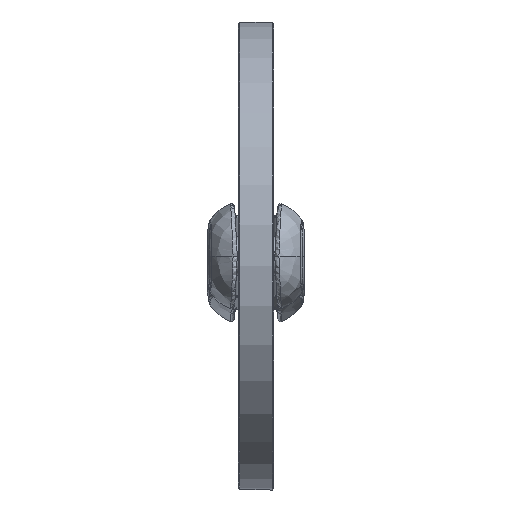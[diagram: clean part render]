
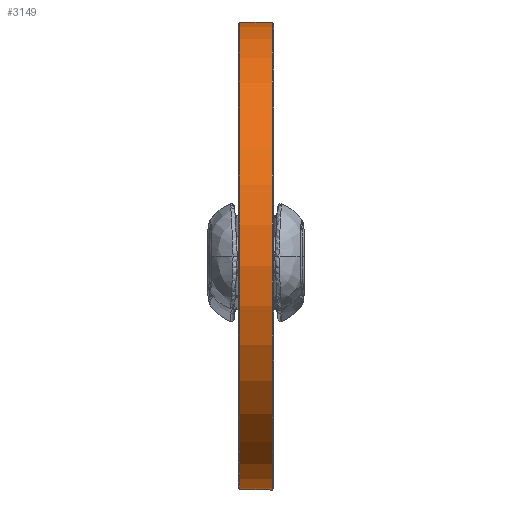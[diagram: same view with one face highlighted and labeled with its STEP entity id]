
A CAD part, top view. The second image highlights one B-rep face of the part: STEP entity #3149.
In plain terms, the highlighted cylindrical face has radius 787.5 mm (diameter 1575 mm), a full revolution.
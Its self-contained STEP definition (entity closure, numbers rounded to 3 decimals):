
#634=CYLINDRICAL_SURFACE($,#3501,787.5);
#762=FACE_BOUND($,#1303,.T.);
#975=FACE_OUTER_BOUND($,#1302,.T.);
#1302=EDGE_LOOP($,(#2882));
#1303=EDGE_LOOP($,(#2883));
#1491=CIRCLE($,#3500,787.5);
#1492=CIRCLE($,#3502,787.5);
#1763=VERTEX_POINT($,#14202);
#1764=VERTEX_POINT($,#14205);
#2141=EDGE_CURVE($,#1763,#1763,#1491,.T.);
#2142=EDGE_CURVE($,#1764,#1764,#1492,.T.);
#2882=ORIENTED_EDGE($,*,*,#2142,.F.);
#2883=ORIENTED_EDGE($,*,*,#2141,.F.);
#3149=ADVANCED_FACE($,(#975,#762),#634,.T.);
#3500=AXIS2_PLACEMENT_3D($,#14203,#4225,#4226);
#3501=AXIS2_PLACEMENT_3D($,#14204,#4227,#4228);
#3502=AXIS2_PLACEMENT_3D($,#14206,#4229,#4230);
#4225=DIRECTION('center_axis',(0.,0.,-1.));
#4226=DIRECTION('ref_axis',(-1.,0.,0.));
#4227=DIRECTION('center_axis',(0.,0.,1.));
#4228=DIRECTION('ref_axis',(-1.,0.,0.));
#4229=DIRECTION('center_axis',(0.,0.,1.));
#4230=DIRECTION('ref_axis',(-1.,0.,0.));
#14202=CARTESIAN_POINT('',(787.5,0.,-54.));
#14203=CARTESIAN_POINT('Origin',(0.,0.,-54.));
#14204=CARTESIAN_POINT('Origin',(0.,0.,0.));
#14205=CARTESIAN_POINT('',(787.5,0.,54.));
#14206=CARTESIAN_POINT('Origin',(0.,0.,54.));
